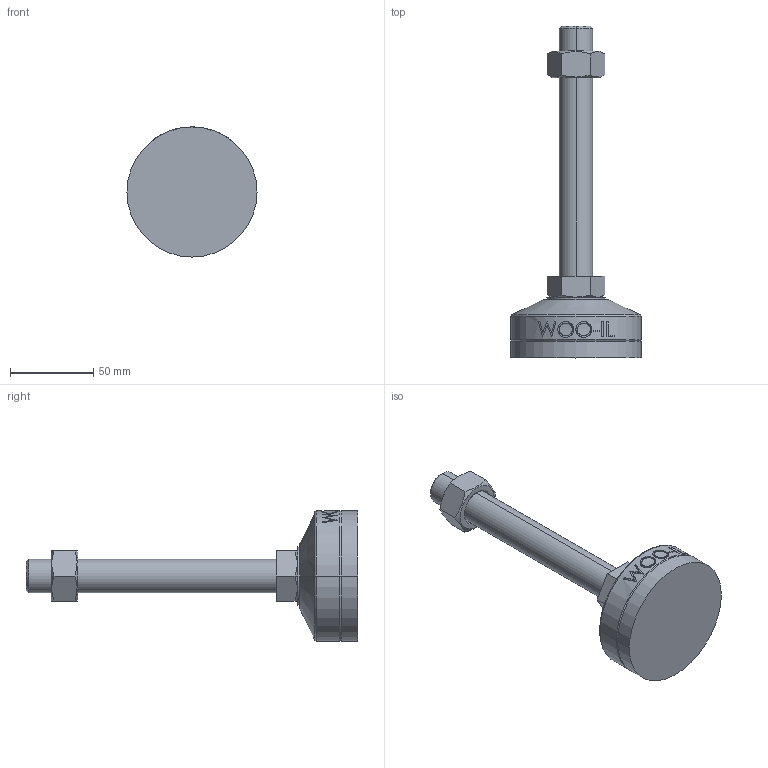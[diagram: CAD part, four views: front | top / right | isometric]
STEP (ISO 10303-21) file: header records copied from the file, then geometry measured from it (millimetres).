
FILE_DESCRIPTION (( 'STEP AP214' ), '1' );
FILE_NAME ('MFZR78-M20-150.step', '2021-03-29T06:58:34', ( '' ), ( '' ), 'SwSTEP 2.0', 'SolidWorks 2019', '' );
FILE_SCHEMA (( 'AUTOMOTIVE_DESIGN' ));
Length unit declared in the file: millimetre
Products named in the file (2): MFZR78-M20-150
Bounding box: 78 x 199 x 78 mm (x, y, z)
Volume: 213560.8 mm3; surface area: 32308.9 mm2
Topology: 3 solids, 3 shells, 102 faces, 239 edges, 154 vertices
Faces by surface type: plane 48, cylinder 18, bspline 16, cone 14, torus 6
Entity records: 4524 total; most frequent: CARTESIAN_POINT 2249, ORIENTED_EDGE 478, DIRECTION 415, EDGE_CURVE 239, AXIS2_PLACEMENT_3D 158, VERTEX_POINT 154, EDGE_LOOP 115, ADVANCED_FACE 102
